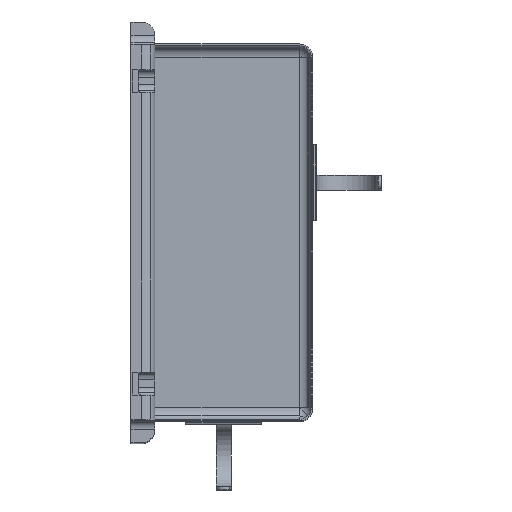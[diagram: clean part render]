
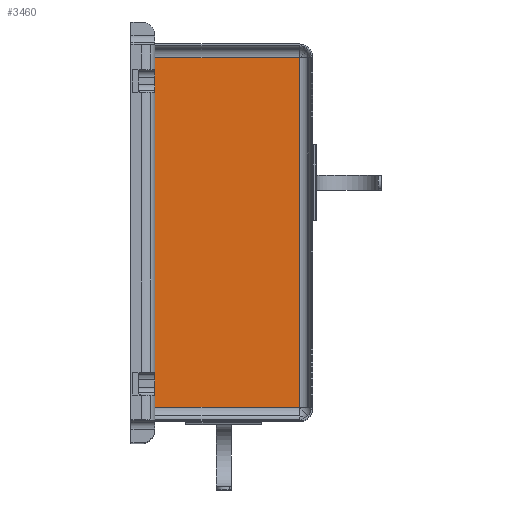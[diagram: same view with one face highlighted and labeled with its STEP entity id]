
A CAD part, top view. The second image highlights one B-rep face of the part: STEP entity #3460.
In plain terms, the highlighted planar face has unit normal (0, 0, 1).
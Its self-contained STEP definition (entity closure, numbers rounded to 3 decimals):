
#3460=ADVANCED_FACE('',(#6455),#6456,.F.);
#6455=FACE_OUTER_BOUND('',#10673,.T.);
#6456=PLANE('',#10674);
#10673=EDGE_LOOP('',(#14488,#14489,#14490,#14491));
#10674=AXIS2_PLACEMENT_3D('',#14492,#14493,#14494);
#14488=ORIENTED_EDGE('',*,*,#19982,.F.);
#14489=ORIENTED_EDGE('',*,*,#19972,.F.);
#14490=ORIENTED_EDGE('',*,*,#20009,.F.);
#14491=ORIENTED_EDGE('',*,*,#20182,.F.);
#14492=CARTESIAN_POINT('',(67.55,124.0,315.0));
#14493=DIRECTION('',(0.0,0.,-1.0));
#14494=DIRECTION('',(-1.0,0.0,0.0));
#19972=EDGE_CURVE('',#23503,#23505,#23506,.T.);
#19982=EDGE_CURVE('',#23505,#23521,#23522,.T.);
#20009=EDGE_CURVE('',#23563,#23503,#23565,.T.);
#20182=EDGE_CURVE('',#23521,#23563,#23825,.T.);
#23503=VERTEX_POINT('',#26870);
#23505=VERTEX_POINT('',#26872);
#23506=LINE('',#26873,#26874);
#23521=VERTEX_POINT('',#26892);
#23522=LINE('',#26893,#26894);
#23563=VERTEX_POINT('',#26942);
#23565=LINE('',#26944,#26945);
#23825=LINE('',#27275,#27276);
#26870=CARTESIAN_POINT('',(111.3,239.5,315.0));
#26872=CARTESIAN_POINT('',(111.3,8.5,315.0));
#26873=CARTESIAN_POINT('',(111.3,185.75,315.0));
#26874=VECTOR('',#30590,10.0);
#26892=CARTESIAN_POINT('',(15.8,8.5,315.0));
#26893=CARTESIAN_POINT('',(93.425,8.5,315.0));
#26894=VECTOR('',#30606,10.0);
#26942=CARTESIAN_POINT('',(15.8,239.5,315.0));
#26944=CARTESIAN_POINT('',(41.675,239.5,315.0));
#26945=VECTOR('',#30653,10.0);
#27275=CARTESIAN_POINT('',(15.8,247.5,315.0));
#27276=VECTOR('',#30907,10.0);
#30590=DIRECTION('',(0.0,-1.0,0.));
#30606=DIRECTION('',(-1.0,0.,0.));
#30653=DIRECTION('',(1.0,0.0,0.0));
#30907=DIRECTION('',(0.,1.0,0.));
